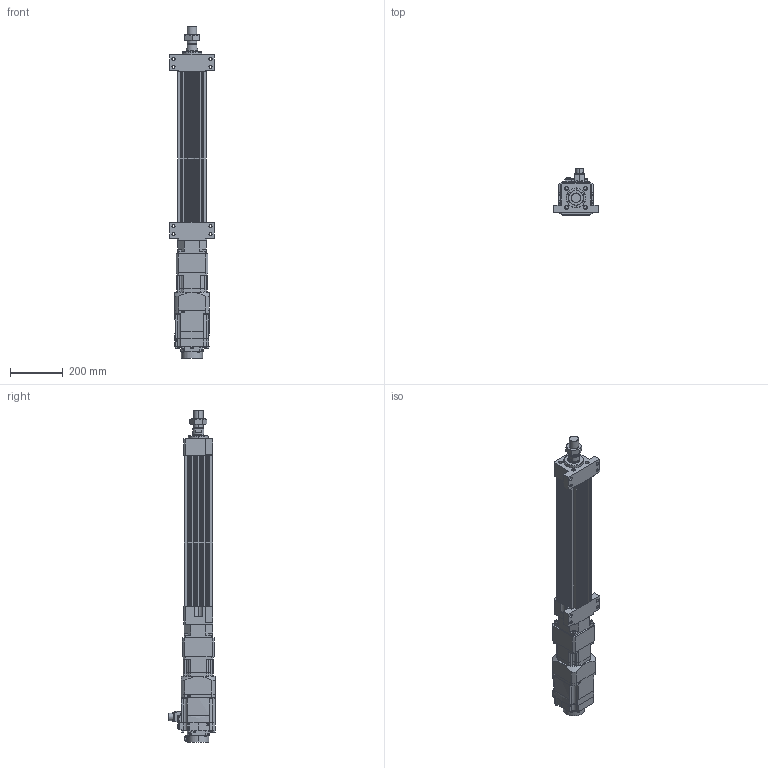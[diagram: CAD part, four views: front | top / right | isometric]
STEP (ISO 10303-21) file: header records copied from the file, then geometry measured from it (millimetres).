
FILE_DESCRIPTION (( 'STEP AP203' ), '1' );
FILE_NAME ('HES110NS(HS)-S400-W015G00-M-FFB.STEP', '2026-06-10T06:00:09', ( 'tms' ), ( '' ), 'SwSTEP 2.0', 'SolidWorks 2013', '' );
FILE_SCHEMA (( 'CONFIG_CONTROL_DESIGN' ));
Length unit declared in the file: millimetre
Products named in the file (8): AB1151; AB1152; HG-SR152B; M36X1.5P; HES110NS(HS)-S400-W015G00-M-FFB; HES110-M-ROD-400; HES110-FFB-400; HES110-S-G120
Assembly tree (7 placements, depth 2):
  HES110NS(HS)-S400-W015G00-M-FFB
    HES110-FFB-400
    HES110-M-ROD-400
    M36X1.5P
    HES110-S-G120
    AB1151
    AB1152
    HG-SR152B
Bounding box: 170 x 177.49 x 1256 mm (x, y, z)
Volume: 8545089.9 mm3; surface area: 1129143.2 mm2
Topology: 5 solids, 12 shells, 1199 faces, 3044 edges, 1985 vertices
Faces by surface type: plane 561, cylinder 554, cone 70, bspline 10, torus 4
Entity records: 38159 total; most frequent: CARTESIAN_POINT 7343, DIRECTION 6579, ORIENTED_EDGE 6060, EDGE_CURVE 3040, AXIS2_PLACEMENT_3D 2434, VERTEX_POINT 1985, LINE 1711, VECTOR 1711
